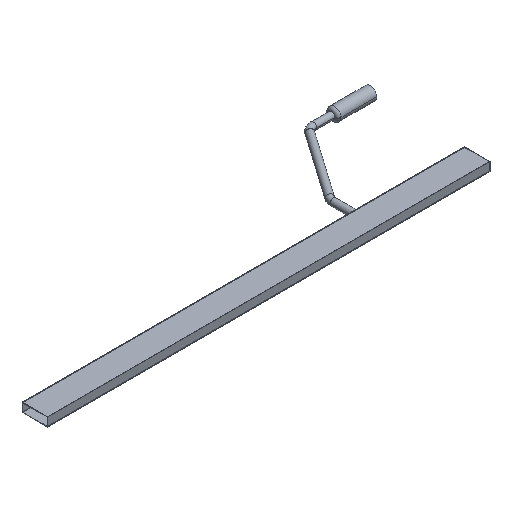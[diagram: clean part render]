
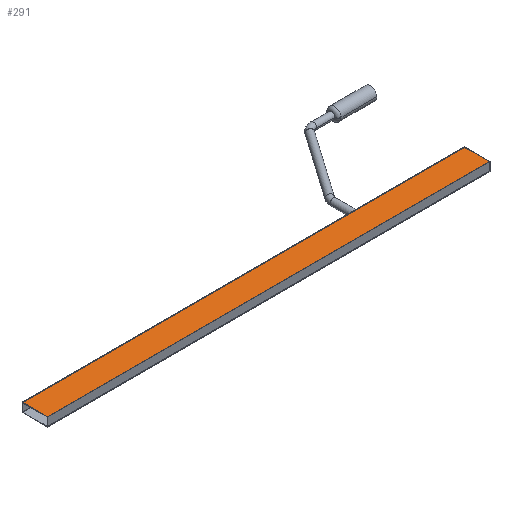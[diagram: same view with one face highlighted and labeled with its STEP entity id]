
A CAD part, isometric view. The second image highlights one B-rep face of the part: STEP entity #291.
In plain terms, the highlighted planar face has unit normal (0, 0, 1).
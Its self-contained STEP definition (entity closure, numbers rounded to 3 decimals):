
#16 = EDGE_LOOP ( 'NONE', ( #76, #77, #78, #79 ) ) ;
#76 = ORIENTED_EDGE ( 'NONE', *, *, #330, .F. ) ;
#77 = ORIENTED_EDGE ( 'NONE', *, *, #380, .F. ) ;
#78 = ORIENTED_EDGE ( 'NONE', *, *, #350, .T. ) ;
#79 = ORIENTED_EDGE ( 'NONE', *, *, #376, .T. ) ;
#152 = FACE_OUTER_BOUND ( 'NONE', #16, .T. ) ;
#190 = VECTOR ( 'NONE', #571, 1000. ) ;
#205 = LINE ( 'NONE', #553, #190 ) ;
#220 = VECTOR ( 'NONE', #596, 1000. ) ;
#223 = LINE ( 'NONE', #582, #220 ) ;
#237 = VECTOR ( 'NONE', #623, 1000. ) ;
#240 = LINE ( 'NONE', #622, #237 ) ;
#248 = LINE ( 'NONE', #630, #249 ) ;
#249 = VECTOR ( 'NONE', #631, 1000. ) ;
#291 = ADVANCED_FACE ( 'NONE', ( #152 ), #466, .T. ) ;
#330 = EDGE_CURVE ( 'NONE', #450, #453, #205, .T. ) ;
#341 = AXIS2_PLACEMENT_3D ( 'NONE', #473, #478, #479 ) ;
#350 = EDGE_CURVE ( 'NONE', #454, #449, #223, .T. ) ;
#376 = EDGE_CURVE ( 'NONE', #449, #453, #240, .T. ) ;
#380 = EDGE_CURVE ( 'NONE', #454, #450, #248, .T. ) ;
#449 = VERTEX_POINT ( 'NONE', #700 ) ;
#450 = VERTEX_POINT ( 'NONE', #701 ) ;
#453 = VERTEX_POINT ( 'NONE', #704 ) ;
#454 = VERTEX_POINT ( 'NONE', #705 ) ;
#466 = PLANE ( 'NONE',  #341 ) ;
#473 = CARTESIAN_POINT ( 'NONE',  ( -389.853, -30., 5.25 ) ) ;
#478 = DIRECTION ( 'NONE',  ( 0., 0., 1. ) ) ;
#479 = DIRECTION ( 'NONE',  ( 0., -1., 0. ) ) ;
#553 = CARTESIAN_POINT ( 'NONE',  ( 127.247, -30., 5.25 ) ) ;
#571 = DIRECTION ( 'NONE',  ( 0., -1., 0. ) ) ;
#582 = CARTESIAN_POINT ( 'NONE',  ( -389.853, -30., 5.25 ) ) ;
#596 = DIRECTION ( 'NONE',  ( 0., -1., 0. ) ) ;
#622 = CARTESIAN_POINT ( 'NONE',  ( -389.853, -30., 5.25 ) ) ;
#623 = DIRECTION ( 'NONE',  ( 1., 0., 0. ) ) ;
#630 = CARTESIAN_POINT ( 'NONE',  ( -389.853, 0., 5.25 ) ) ;
#631 = DIRECTION ( 'NONE',  ( 1., 0., 0. ) ) ;
#700 = CARTESIAN_POINT ( 'NONE',  ( -389.853, -30., 5.25 ) ) ;
#701 = CARTESIAN_POINT ( 'NONE',  ( 127.247, 0., 5.25 ) ) ;
#704 = CARTESIAN_POINT ( 'NONE',  ( 127.247, -30., 5.25 ) ) ;
#705 = CARTESIAN_POINT ( 'NONE',  ( -389.853, 0., 5.25 ) ) ;
